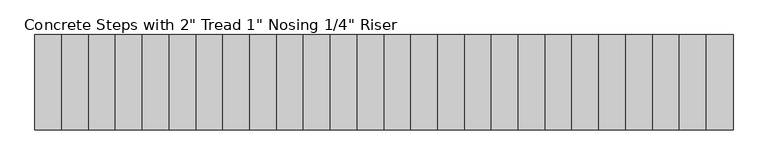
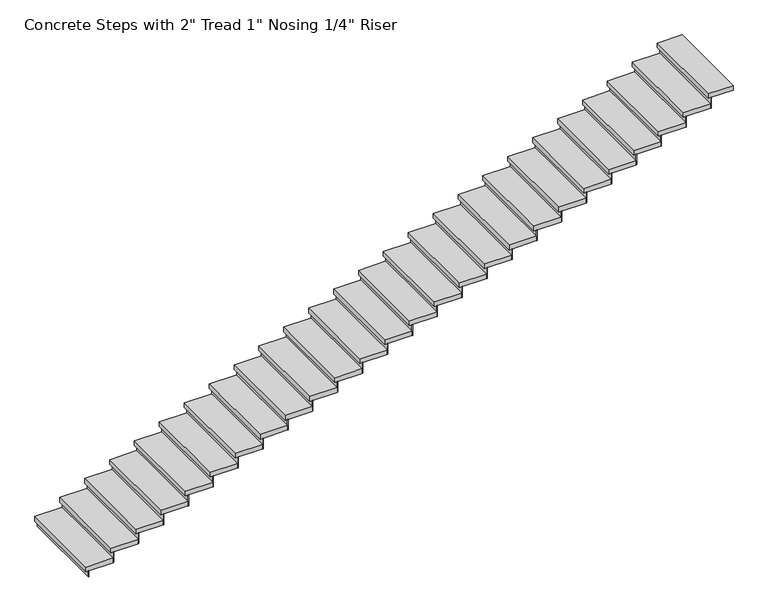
"""IFC4 building model written with IfcOpenShell, lengths in millimetres: stair flight geometry."""

from ifc_helpers import new_model, si_unit, frame, origin, origin_with_axes, place, context, project, spatial, polyline, outline, extrude, source, transform, mapped, element, save


def stair_flight_7933ee3d(model_context):
    return source(origin(), model_context, "Body", "SweptSolid", [
        extrude(outline(polyline([(-13769.987319, 42363.3216942), (-13776.337319, 42363.3216942), (-13776.337319, 43277.7216942), (-13769.987319, 43277.7216942), (-13769.987319, 42363.3216942)])), origin_with_axes(), (0.0, 0.0, 1.0), 66.4307692),
        extrude(outline(polyline([(-13518.527319, 43277.7216942), (-13518.527319, 42363.3216942), (-13801.737319, 42363.3216942), (-13801.737319, 43277.7216942), (-13518.527319, 43277.7216942)])), frame((0.0, 0.0, 66.4307692), z_axis=(0.0, 0.0, 1.0), x_axis=(1.0, 0.0, 0.0)), (0.0, 0.0, 1.0), 50.8),
        extrude(outline(polyline([(-13512.177319, 42363.3216942), (-13518.527319, 42363.3216942), (-13518.527319, 43277.7216942), (-13512.177319, 43277.7216942), (-13512.177319, 42363.3216942)])), frame((0.0, 0.0, 66.4307692), z_axis=(0.0, 0.0, 1.0), x_axis=(1.0, 0.0, 0.0)), (0.0, 0.0, 1.0), 117.2307692),
        extrude(outline(polyline([(-13260.717319, 43277.7216942), (-13260.717319, 42363.3216942), (-13543.927319, 42363.3216942), (-13543.927319, 43277.7216942), (-13260.717319, 43277.7216942)])), frame((0.0, 0.0, 183.6615385), z_axis=(0.0, 0.0, 1.0), x_axis=(1.0, 0.0, 0.0)), (0.0, 0.0, 1.0), 50.8),
        extrude(outline(polyline([(-13254.367319, 42363.3216942), (-13260.717319, 42363.3216942), (-13260.717319, 43277.7216942), (-13254.367319, 43277.7216942), (-13254.367319, 42363.3216942)])), frame((0.0, 0.0, 183.6615385), z_axis=(0.0, 0.0, 1.0), x_axis=(1.0, 0.0, 0.0)), (0.0, 0.0, 1.0), 117.2307692),
        extrude(outline(polyline([(-13002.907319, 43277.7216942), (-13002.907319, 42363.3216942), (-13286.117319, 42363.3216942), (-13286.117319, 43277.7216942), (-13002.907319, 43277.7216942)])), frame((0.0, 0.0, 300.8923077), z_axis=(0.0, 0.0, 1.0), x_axis=(1.0, 0.0, 0.0)), (0.0, 0.0, 1.0), 50.8),
        extrude(outline(polyline([(-12996.557319, 42363.3216942), (-13002.907319, 42363.3216942), (-13002.907319, 43277.7216942), (-12996.557319, 43277.7216942), (-12996.557319, 42363.3216942)])), frame((0.0, 0.0, 300.8923077), z_axis=(0.0, 0.0, 1.0), x_axis=(1.0, 0.0, 0.0)), (0.0, 0.0, 1.0), 117.2307692),
        extrude(outline(polyline([(-12745.097319, 43277.7216942), (-12745.097319, 42363.3216942), (-13028.307319, 42363.3216942), (-13028.307319, 43277.7216942), (-12745.097319, 43277.7216942)])), frame((0.0, 0.0, 418.1230769), z_axis=(0.0, 0.0, 1.0), x_axis=(1.0, 0.0, 0.0)), (0.0, 0.0, 1.0), 50.8),
        extrude(outline(polyline([(-12738.747319, 42363.3216942), (-12745.097319, 42363.3216942), (-12745.097319, 43277.7216942), (-12738.747319, 43277.7216942), (-12738.747319, 42363.3216942)])), frame((0.0, 0.0, 418.1230769), z_axis=(0.0, 0.0, 1.0), x_axis=(1.0, 0.0, 0.0)), (0.0, 0.0, 1.0), 117.2307692),
        extrude(outline(polyline([(-12487.287319, 43277.7216942), (-12487.287319, 42363.3216942), (-12770.497319, 42363.3216942), (-12770.497319, 43277.7216942), (-12487.287319, 43277.7216942)])), frame((0.0, 0.0, 535.3538462), z_axis=(0.0, 0.0, 1.0), x_axis=(1.0, 0.0, 0.0)), (0.0, 0.0, 1.0), 50.8),
        extrude(outline(polyline([(-12480.937319, 42363.3216942), (-12487.287319, 42363.3216942), (-12487.287319, 43277.7216942), (-12480.937319, 43277.7216942), (-12480.937319, 42363.3216942)])), frame((0.0, 0.0, 535.3538462), z_axis=(0.0, 0.0, 1.0), x_axis=(1.0, 0.0, 0.0)), (0.0, 0.0, 1.0), 117.2307692),
        extrude(outline(polyline([(-12229.477319, 43277.7216942), (-12229.477319, 42363.3216942), (-12512.687319, 42363.3216942), (-12512.687319, 43277.7216942), (-12229.477319, 43277.7216942)])), frame((0.0, 0.0, 652.5846154), z_axis=(0.0, 0.0, 1.0), x_axis=(1.0, 0.0, 0.0)), (0.0, 0.0, 1.0), 50.8),
        extrude(outline(polyline([(-12223.127319, 42363.3216942), (-12229.477319, 42363.3216942), (-12229.477319, 43277.7216942), (-12223.127319, 43277.7216942), (-12223.127319, 42363.3216942)])), frame((0.0, 0.0, 652.5846154), z_axis=(0.0, 0.0, 1.0), x_axis=(1.0, 0.0, 0.0)), (0.0, 0.0, 1.0), 117.2307692),
        extrude(outline(polyline([(-11971.667319, 43277.7216942), (-11971.667319, 42363.3216942), (-12254.877319, 42363.3216942), (-12254.877319, 43277.7216942), (-11971.667319, 43277.7216942)])), frame((0.0, 0.0, 769.8153846), z_axis=(0.0, 0.0, 1.0), x_axis=(1.0, 0.0, 0.0)), (0.0, 0.0, 1.0), 50.8),
        extrude(outline(polyline([(-11965.317319, 42363.3216942), (-11971.667319, 42363.3216942), (-11971.667319, 43277.7216942), (-11965.317319, 43277.7216942), (-11965.317319, 42363.3216942)])), frame((0.0, 0.0, 769.8153846), z_axis=(0.0, 0.0, 1.0), x_axis=(1.0, 0.0, 0.0)), (0.0, 0.0, 1.0), 117.2307692),
        extrude(outline(polyline([(-11713.857319, 43277.7216942), (-11713.857319, 42363.3216942), (-11997.067319, 42363.3216942), (-11997.067319, 43277.7216942), (-11713.857319, 43277.7216942)])), frame((0.0, 0.0, 887.0461538), z_axis=(0.0, 0.0, 1.0), x_axis=(1.0, 0.0, 0.0)), (0.0, 0.0, 1.0), 50.8),
        extrude(outline(polyline([(-11707.507319, 42363.3216942), (-11713.857319, 42363.3216942), (-11713.857319, 43277.7216942), (-11707.507319, 43277.7216942), (-11707.507319, 42363.3216942)])), frame((0.0, 0.0, 887.0461538), z_axis=(0.0, 0.0, 1.0), x_axis=(1.0, 0.0, 0.0)), (0.0, 0.0, 1.0), 117.2307692),
        extrude(outline(polyline([(-11456.047319, 43277.7216942), (-11456.047319, 42363.3216942), (-11739.257319, 42363.3216942), (-11739.257319, 43277.7216942), (-11456.047319, 43277.7216942)])), frame((0.0, 0.0, 1004.2769231), z_axis=(0.0, 0.0, 1.0), x_axis=(1.0, 0.0, 0.0)), (0.0, 0.0, 1.0), 50.8),
        extrude(outline(polyline([(-11449.697319, 42363.3216942), (-11456.047319, 42363.3216942), (-11456.047319, 43277.7216942), (-11449.697319, 43277.7216942), (-11449.697319, 42363.3216942)])), frame((0.0, 0.0, 1004.2769231), z_axis=(0.0, 0.0, 1.0), x_axis=(1.0, 0.0, 0.0)), (0.0, 0.0, 1.0), 117.2307692),
        extrude(outline(polyline([(-11198.237319, 43277.7216942), (-11198.237319, 42363.3216942), (-11481.447319, 42363.3216942), (-11481.447319, 43277.7216942), (-11198.237319, 43277.7216942)])), frame((0.0, 0.0, 1121.5076923), z_axis=(0.0, 0.0, 1.0), x_axis=(1.0, 0.0, 0.0)), (0.0, 0.0, 1.0), 50.8),
        extrude(outline(polyline([(-11191.887319, 42363.3216942), (-11198.237319, 42363.3216942), (-11198.237319, 43277.7216942), (-11191.887319, 43277.7216942), (-11191.887319, 42363.3216942)])), frame((0.0, 0.0, 1121.5076923), z_axis=(0.0, 0.0, 1.0), x_axis=(1.0, 0.0, 0.0)), (0.0, 0.0, 1.0), 117.2307692),
        extrude(outline(polyline([(-10940.427319, 43277.7216942), (-10940.427319, 42363.3216942), (-11223.637319, 42363.3216942), (-11223.637319, 43277.7216942), (-10940.427319, 43277.7216942)])), frame((0.0, 0.0, 1238.7384615), z_axis=(0.0, 0.0, 1.0), x_axis=(1.0, 0.0, 0.0)), (0.0, 0.0, 1.0), 50.8),
        extrude(outline(polyline([(-10934.077319, 42363.3216942), (-10940.427319, 42363.3216942), (-10940.427319, 43277.7216942), (-10934.077319, 43277.7216942), (-10934.077319, 42363.3216942)])), frame((0.0, 0.0, 1238.7384615), z_axis=(0.0, 0.0, 1.0), x_axis=(1.0, 0.0, 0.0)), (0.0, 0.0, 1.0), 117.2307692),
        extrude(outline(polyline([(-10682.617319, 43277.7216942), (-10682.617319, 42363.3216942), (-10965.827319, 42363.3216942), (-10965.827319, 43277.7216942), (-10682.617319, 43277.7216942)])), frame((0.0, 0.0, 1355.9692308), z_axis=(0.0, 0.0, 1.0), x_axis=(1.0, 0.0, 0.0)), (0.0, 0.0, 1.0), 50.8),
        extrude(outline(polyline([(-10676.267319, 42363.3216942), (-10682.617319, 42363.3216942), (-10682.617319, 43277.7216942), (-10676.267319, 43277.7216942), (-10676.267319, 42363.3216942)])), frame((0.0, 0.0, 1355.9692308), z_axis=(0.0, 0.0, 1.0), x_axis=(1.0, 0.0, 0.0)), (0.0, 0.0, 1.0), 117.2307692),
        extrude(outline(polyline([(-10424.807319, 43277.7216942), (-10424.807319, 42363.3216942), (-10708.017319, 42363.3216942), (-10708.017319, 43277.7216942), (-10424.807319, 43277.7216942)])), frame((0.0, 0.0, 1473.2), z_axis=(0.0, 0.0, 1.0), x_axis=(1.0, 0.0, 0.0)), (0.0, 0.0, 1.0), 50.8),
        extrude(outline(polyline([(-10418.457319, 42363.3216942), (-10424.807319, 42363.3216942), (-10424.807319, 43277.7216942), (-10418.457319, 43277.7216942), (-10418.457319, 42363.3216942)])), frame((0.0, 0.0, 1473.2), z_axis=(0.0, 0.0, 1.0), x_axis=(1.0, 0.0, 0.0)), (0.0, 0.0, 1.0), 117.2307692),
        extrude(outline(polyline([(-10166.997319, 43277.7216942), (-10166.997319, 42363.3216942), (-10450.207319, 42363.3216942), (-10450.207319, 43277.7216942), (-10166.997319, 43277.7216942)])), frame((0.0, 0.0, 1590.4307692), z_axis=(0.0, 0.0, 1.0), x_axis=(1.0, 0.0, 0.0)), (0.0, 0.0, 1.0), 50.8),
        extrude(outline(polyline([(-10160.647319, 42363.3216942), (-10166.997319, 42363.3216942), (-10166.997319, 43277.7216942), (-10160.647319, 43277.7216942), (-10160.647319, 42363.3216942)])), frame((0.0, 0.0, 1590.4307692), z_axis=(0.0, 0.0, 1.0), x_axis=(1.0, 0.0, 0.0)), (0.0, 0.0, 1.0), 117.2307692),
        extrude(outline(polyline([(-9909.187319, 43277.7216942), (-9909.187319, 42363.3216942), (-10192.397319, 42363.3216942), (-10192.397319, 43277.7216942), (-9909.187319, 43277.7216942)])), frame((0.0, 0.0, 1707.6615385), z_axis=(0.0, 0.0, 1.0), x_axis=(1.0, 0.0, 0.0)), (0.0, 0.0, 1.0), 50.8),
        extrude(outline(polyline([(-9902.837319, 42363.3216942), (-9909.187319, 42363.3216942), (-9909.187319, 43277.7216942), (-9902.837319, 43277.7216942), (-9902.837319, 42363.3216942)])), frame((0.0, 0.0, 1707.6615385), z_axis=(0.0, 0.0, 1.0), x_axis=(1.0, 0.0, 0.0)), (0.0, 0.0, 1.0), 117.2307692),
        extrude(outline(polyline([(-9651.377319, 43277.7216942), (-9651.377319, 42363.3216942), (-9934.587319, 42363.3216942), (-9934.587319, 43277.7216942), (-9651.377319, 43277.7216942)])), frame((0.0, 0.0, 1824.8923077), z_axis=(0.0, 0.0, 1.0), x_axis=(1.0, 0.0, 0.0)), (0.0, 0.0, 1.0), 50.8),
        extrude(outline(polyline([(-9645.027319, 42363.3216942), (-9651.377319, 42363.3216942), (-9651.377319, 43277.7216942), (-9645.027319, 43277.7216942), (-9645.027319, 42363.3216942)])), frame((0.0, 0.0, 1824.8923077), z_axis=(0.0, 0.0, 1.0), x_axis=(1.0, 0.0, 0.0)), (0.0, 0.0, 1.0), 117.2307692),
        extrude(outline(polyline([(-9393.567319, 43277.7216942), (-9393.567319, 42363.3216942), (-9676.777319, 42363.3216942), (-9676.777319, 43277.7216942), (-9393.567319, 43277.7216942)])), frame((0.0, 0.0, 1942.1230769), z_axis=(0.0, 0.0, 1.0), x_axis=(1.0, 0.0, 0.0)), (0.0, 0.0, 1.0), 50.8),
        extrude(outline(polyline([(-9387.217319, 42363.3216942), (-9393.567319, 42363.3216942), (-9393.567319, 43277.7216942), (-9387.217319, 43277.7216942), (-9387.217319, 42363.3216942)])), frame((0.0, 0.0, 1942.1230769), z_axis=(0.0, 0.0, 1.0), x_axis=(1.0, 0.0, 0.0)), (0.0, 0.0, 1.0), 117.2307692),
        extrude(outline(polyline([(-9135.757319, 43277.7216942), (-9135.757319, 42363.3216942), (-9418.967319, 42363.3216942), (-9418.967319, 43277.7216942), (-9135.757319, 43277.7216942)])), frame((0.0, 0.0, 2059.3538462), z_axis=(0.0, 0.0, 1.0), x_axis=(1.0, 0.0, 0.0)), (0.0, 0.0, 1.0), 50.8),
        extrude(outline(polyline([(-9129.407319, 42363.3216942), (-9135.757319, 42363.3216942), (-9135.757319, 43277.7216942), (-9129.407319, 43277.7216942), (-9129.407319, 42363.3216942)])), frame((0.0, 0.0, 2059.3538462), z_axis=(0.0, 0.0, 1.0), x_axis=(1.0, 0.0, 0.0)), (0.0, 0.0, 1.0), 117.2307692),
        extrude(outline(polyline([(-8877.947319, 43277.7216942), (-8877.947319, 42363.3216942), (-9161.157319, 42363.3216942), (-9161.157319, 43277.7216942), (-8877.947319, 43277.7216942)])), frame((0.0, 0.0, 2176.5846154), z_axis=(0.0, 0.0, 1.0), x_axis=(1.0, 0.0, 0.0)), (0.0, 0.0, 1.0), 50.8),
        extrude(outline(polyline([(-8871.597319, 42363.3216942), (-8877.947319, 42363.3216942), (-8877.947319, 43277.7216942), (-8871.597319, 43277.7216942), (-8871.597319, 42363.3216942)])), frame((0.0, 0.0, 2176.5846154), z_axis=(0.0, 0.0, 1.0), x_axis=(1.0, 0.0, 0.0)), (0.0, 0.0, 1.0), 117.2307692),
        extrude(outline(polyline([(-8620.137319, 43277.7216942), (-8620.137319, 42363.3216942), (-8903.347319, 42363.3216942), (-8903.347319, 43277.7216942), (-8620.137319, 43277.7216942)])), frame((0.0, 0.0, 2293.8153846), z_axis=(0.0, 0.0, 1.0), x_axis=(1.0, 0.0, 0.0)), (0.0, 0.0, 1.0), 50.8),
        extrude(outline(polyline([(-8613.787319, 42363.3216942), (-8620.137319, 42363.3216942), (-8620.137319, 43277.7216942), (-8613.787319, 43277.7216942), (-8613.787319, 42363.3216942)])), frame((0.0, 0.0, 2293.8153846), z_axis=(0.0, 0.0, 1.0), x_axis=(1.0, 0.0, 0.0)), (0.0, 0.0, 1.0), 117.2307692),
        extrude(outline(polyline([(-8362.327319, 43277.7216942), (-8362.327319, 42363.3216942), (-8645.537319, 42363.3216942), (-8645.537319, 43277.7216942), (-8362.327319, 43277.7216942)])), frame((0.0, 0.0, 2411.0461538), z_axis=(0.0, 0.0, 1.0), x_axis=(1.0, 0.0, 0.0)), (0.0, 0.0, 1.0), 50.8),
        extrude(outline(polyline([(-8355.977319, 42363.3216942), (-8362.327319, 42363.3216942), (-8362.327319, 43277.7216942), (-8355.977319, 43277.7216942), (-8355.977319, 42363.3216942)])), frame((0.0, 0.0, 2411.0461538), z_axis=(0.0, 0.0, 1.0), x_axis=(1.0, 0.0, 0.0)), (0.0, 0.0, 1.0), 117.2307692),
        extrude(outline(polyline([(-8104.517319, 43277.7216942), (-8104.517319, 42363.3216942), (-8387.727319, 42363.3216942), (-8387.727319, 43277.7216942), (-8104.517319, 43277.7216942)])), frame((0.0, 0.0, 2528.2769231), z_axis=(0.0, 0.0, 1.0), x_axis=(1.0, 0.0, 0.0)), (0.0, 0.0, 1.0), 50.8),
        extrude(outline(polyline([(-8098.167319, 42363.3216942), (-8104.517319, 42363.3216942), (-8104.517319, 43277.7216942), (-8098.167319, 43277.7216942), (-8098.167319, 42363.3216942)])), frame((0.0, 0.0, 2528.2769231), z_axis=(0.0, 0.0, 1.0), x_axis=(1.0, 0.0, 0.0)), (0.0, 0.0, 1.0), 117.2307692),
        extrude(outline(polyline([(-7846.707319, 43277.7216942), (-7846.707319, 42363.3216942), (-8129.917319, 42363.3216942), (-8129.917319, 43277.7216942), (-7846.707319, 43277.7216942)])), frame((0.0, 0.0, 2645.5076923), z_axis=(0.0, 0.0, 1.0), x_axis=(1.0, 0.0, 0.0)), (0.0, 0.0, 1.0), 50.8),
        extrude(outline(polyline([(-7840.357319, 42363.3216942), (-7846.707319, 42363.3216942), (-7846.707319, 43277.7216942), (-7840.357319, 43277.7216942), (-7840.357319, 42363.3216942)])), frame((0.0, 0.0, 2645.5076923), z_axis=(0.0, 0.0, 1.0), x_axis=(1.0, 0.0, 0.0)), (0.0, 0.0, 1.0), 117.2307692),
        extrude(outline(polyline([(-7588.897319, 43277.7216942), (-7588.897319, 42363.3216942), (-7872.107319, 42363.3216942), (-7872.107319, 43277.7216942), (-7588.897319, 43277.7216942)])), frame((0.0, 0.0, 2762.7384615), z_axis=(0.0, 0.0, 1.0), x_axis=(1.0, 0.0, 0.0)), (0.0, 0.0, 1.0), 50.8),
        extrude(outline(polyline([(-7582.547319, 42363.3216942), (-7588.897319, 42363.3216942), (-7588.897319, 43277.7216942), (-7582.547319, 43277.7216942), (-7582.547319, 42363.3216942)])), frame((0.0, 0.0, 2762.7384615), z_axis=(0.0, 0.0, 1.0), x_axis=(1.0, 0.0, 0.0)), (0.0, 0.0, 1.0), 117.2307692),
        extrude(outline(polyline([(-7331.087319, 43277.7216942), (-7331.087319, 42363.3216942), (-7614.297319, 42363.3216942), (-7614.297319, 43277.7216942), (-7331.087319, 43277.7216942)])), frame((0.0, 0.0, 2879.9692308), z_axis=(0.0, 0.0, 1.0), x_axis=(1.0, 0.0, 0.0)), (0.0, 0.0, 1.0), 50.8),
        extrude(outline(polyline([(-7324.737319, 42363.3216942), (-7331.087319, 42363.3216942), (-7331.087319, 43277.7216942), (-7324.737319, 43277.7216942), (-7324.737319, 42363.3216942)])), frame((0.0, 0.0, 2879.9692308), z_axis=(0.0, 0.0, 1.0), x_axis=(1.0, 0.0, 0.0)), (0.0, 0.0, 1.0), 117.2307692),
        extrude(outline(polyline([(-7098.677319, 43277.7216942), (-7098.677319, 42363.3216942), (-7356.487319, 42363.3216942), (-7356.487319, 43277.7216942), (-7098.677319, 43277.7216942)])), frame((0.0, 0.0, 2997.2), z_axis=(0.0, 0.0, 1.0), x_axis=(1.0, 0.0, 0.0)), (0.0, 0.0, 1.0), 50.8),
    ])


if __name__ == "__main__":
    model = new_model("IFC4")
    model_context = context("Model", 3, world=origin())
    ifc_project = project(units=[si_unit("LENGTHUNIT", "METRE", prefix="MILLI")], contexts=[model_context])
    site = spatial("IfcSite", under=ifc_project)
    building = spatial("IfcBuilding", under=site)
    placement = place(None, origin())
    stair_flight_shape = stair_flight_7933ee3d(model_context)
    element("IfcStairFlight", 1, ObjectType="Concrete Steps with 2\" Tread 1\" Nosing 1/4\" Riser", at=placement, inside=building, context=model_context, shape_type="MappedRepresentation", body=[
        mapped(stair_flight_shape, transform((0.0, 0.0, 0.0), x_axis=(1.0, 0.0, 0.0), y_axis=(0.0, 1.0, 0.0), z_axis=(0.0, 0.0, 1.0))),
    ])
    save(model, "model.ifc")
